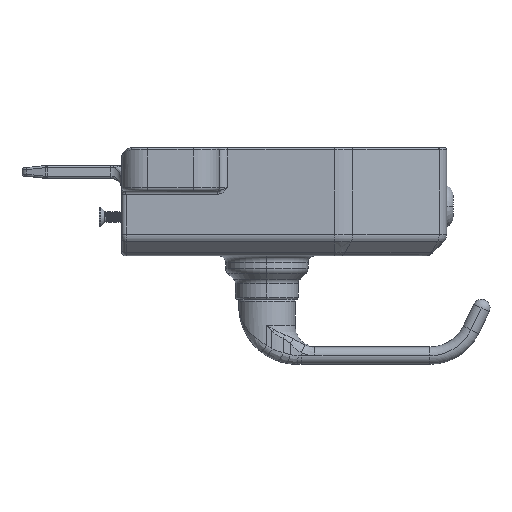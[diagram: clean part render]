
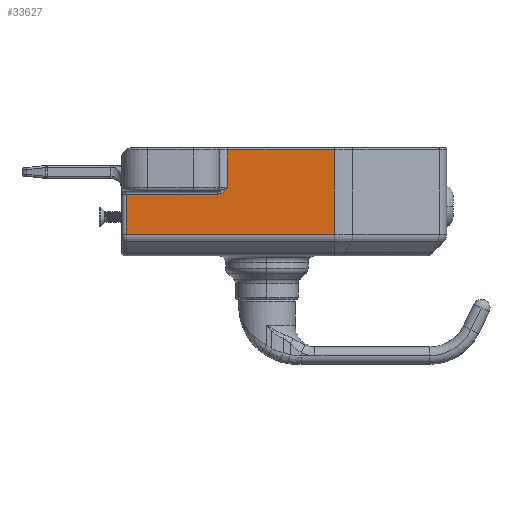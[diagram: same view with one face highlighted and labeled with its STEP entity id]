
A CAD part, left-side view. The second image highlights one B-rep face of the part: STEP entity #33627.
In plain terms, the highlighted planar face has unit normal (-1, 0, 0).
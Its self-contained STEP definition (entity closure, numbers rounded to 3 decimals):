
#937 = CARTESIAN_POINT ( 'NONE',  ( -52., 58.57, 13.579 ) ) ;
#1605 = VECTOR ( 'NONE', #40962, 1000. ) ;
#2148 = VECTOR ( 'NONE', #57525, 1000. ) ;
#2497 = CARTESIAN_POINT ( 'NONE',  ( -52., 13.516, 33.115 ) ) ;
#3290 = LINE ( 'NONE', #4265, #1605 ) ;
#3475 = VERTEX_POINT ( 'NONE', #46753 ) ;
#3653 = DIRECTION ( 'NONE',  ( 1., 0., 0. ) ) ;
#4265 = CARTESIAN_POINT ( 'NONE',  ( -52., 11.57, 52.508 ) ) ;
#6951 = DIRECTION ( 'NONE',  ( 0., 0., -1. ) ) ;
#7864 = LINE ( 'NONE', #67719, #65242 ) ;
#8057 = CARTESIAN_POINT ( 'NONE',  ( -52., 12.945, 33.591 ) ) ;
#8082 = ORIENTED_EDGE ( 'NONE', *, *, #20477, .T. ) ;
#10951 = LINE ( 'NONE', #33113, #55306 ) ;
#12161 = EDGE_CURVE ( 'NONE', #50565, #62761, #59789, .T. ) ;
#13631 = CARTESIAN_POINT ( 'NONE',  ( -52., 11.57, 35.008 ) ) ;
#14460 = EDGE_CURVE ( 'NONE', #59483, #52433, #3290, .T. ) ;
#16265 = CARTESIAN_POINT ( 'NONE',  ( -52., -37.571, 13.579 ) ) ;
#16887 = LINE ( 'NONE', #38975, #2148 ) ;
#17049 = FACE_OUTER_BOUND ( 'NONE', #41883, .T. ) ;
#18375 = ORIENTED_EDGE ( 'NONE', *, *, #61823, .T. ) ;
#18473 = DIRECTION ( 'NONE',  ( 0., 0., -1. ) ) ;
#18945 = CARTESIAN_POINT ( 'NONE',  ( -52., 16.469, 32.008 ) ) ;
#19881 = CARTESIAN_POINT ( 'NONE',  ( -52., 60.57, 53.508 ) ) ;
#20477 = EDGE_CURVE ( 'NONE', #61012, #59483, #16887, .T. ) ;
#21743 = CARTESIAN_POINT ( 'NONE',  ( -52., -37.571, 52.508 ) ) ;
#22101 = DIRECTION ( 'NONE',  ( 0., -1., 0. ) ) ;
#24101 = CARTESIAN_POINT ( 'NONE',  ( -52., 11.57, 53.508 ) ) ;
#24581 = CARTESIAN_POINT ( 'NONE',  ( -52., 15.974, 32.032 ) ) ;
#27100 = VECTOR ( 'NONE', #22101, 1000. ) ;
#28136 = ORIENTED_EDGE ( 'NONE', *, *, #12161, .T. ) ;
#30178 = CARTESIAN_POINT ( 'NONE',  ( -52., 15.251, 32.191 ) ) ;
#31327 = PLANE ( 'NONE',  #45853 ) ;
#31690 = ORIENTED_EDGE ( 'NONE', *, *, #63947, .T. ) ;
#32947 = VERTEX_POINT ( 'NONE', #937 ) ;
#33113 = CARTESIAN_POINT ( 'NONE',  ( -52., 60.57, 32.008 ) ) ;
#33627 = ADVANCED_FACE ( 'NONE', ( #17049 ), #31327, .F. ) ;
#35770 = CARTESIAN_POINT ( 'NONE',  ( -52., 14.122, 32.688 ) ) ;
#37126 = EDGE_CURVE ( 'NONE', #62761, #3475, #10951, .T. ) ;
#38975 = CARTESIAN_POINT ( 'NONE',  ( -52., -37.571, 53.508 ) ) ;
#40962 = DIRECTION ( 'NONE',  ( 0., 1., 0. ) ) ;
#41327 = CARTESIAN_POINT ( 'NONE',  ( -52., 13.32, 33.27 ) ) ;
#41836 = EDGE_CURVE ( 'NONE', #3475, #32947, #7864, .T. ) ;
#41883 = EDGE_LOOP ( 'NONE', ( #60010, #62630, #18375, #8082, #57363, #31690, #28136 ) ) ;
#42482 = DIRECTION ( 'NONE',  ( 0., 1., 0. ) ) ;
#43619 = LINE ( 'NONE', #16265, #27100 ) ;
#45853 = AXIS2_PLACEMENT_3D ( 'NONE', #19881, #3653, #42482 ) ;
#46753 = CARTESIAN_POINT ( 'NONE',  ( -52., 58.57, 32.008 ) ) ;
#46921 = CARTESIAN_POINT ( 'NONE',  ( -52., 12.765, 33.76 ) ) ;
#50516 = CARTESIAN_POINT ( 'NONE',  ( -52., 16.469, 32.008 ) ) ;
#50565 = VERTEX_POINT ( 'NONE', #65555 ) ;
#52433 = VERTEX_POINT ( 'NONE', #59569 ) ;
#55306 = VECTOR ( 'NONE', #72016, 1000. ) ;
#57363 = ORIENTED_EDGE ( 'NONE', *, *, #14460, .T. ) ;
#57525 = DIRECTION ( 'NONE',  ( 0., 0., 1. ) ) ;
#57748 = CARTESIAN_POINT ( 'NONE',  ( -52., 11.903, 34.644 ) ) ;
#57902 = CARTESIAN_POINT ( 'NONE',  ( -52., 16.219, 32.008 ) ) ;
#59483 = VERTEX_POINT ( 'NONE', #21743 ) ;
#59569 = CARTESIAN_POINT ( 'NONE',  ( -52., 11.57, 52.508 ) ) ;
#59789 = B_SPLINE_CURVE_WITH_KNOTS ( 'NONE', 3,
 ( #13631, #57748, #60110, #46921, #8057, #41327, #2497, #35770, #69091, #30178, #63449, #24581, #57902, #18945 ),
 .UNSPECIFIED., .F., .F.,
 ( 4, 2, 2, 2, 2, 2, 4 ),
 ( 0., 0.001, 0.002, 0.003, 0.004, 0.005, 0.006 ),
 .UNSPECIFIED. ) ;
#60010 = ORIENTED_EDGE ( 'NONE', *, *, #37126, .T. ) ;
#60110 = CARTESIAN_POINT ( 'NONE',  ( -52., 12.237, 34.278 ) ) ;
#61012 = VERTEX_POINT ( 'NONE', #62343 ) ;
#61734 = VECTOR ( 'NONE', #18473, 1000. ) ;
#61823 = EDGE_CURVE ( 'NONE', #32947, #61012, #43619, .T. ) ;
#62343 = CARTESIAN_POINT ( 'NONE',  ( -52., -37.571, 13.579 ) ) ;
#62630 = ORIENTED_EDGE ( 'NONE', *, *, #41836, .T. ) ;
#62761 = VERTEX_POINT ( 'NONE', #50516 ) ;
#63449 = CARTESIAN_POINT ( 'NONE',  ( -52., 15.49, 32.124 ) ) ;
#63487 = LINE ( 'NONE', #24101, #61734 ) ;
#63947 = EDGE_CURVE ( 'NONE', #52433, #50565, #63487, .T. ) ;
#65242 = VECTOR ( 'NONE', #6951, 1000. ) ;
#65555 = CARTESIAN_POINT ( 'NONE',  ( -52., 11.57, 35.008 ) ) ;
#67719 = CARTESIAN_POINT ( 'NONE',  ( -52., 58.57, 53.508 ) ) ;
#69091 = CARTESIAN_POINT ( 'NONE',  ( -52., 14.551, 32.449 ) ) ;
#72016 = DIRECTION ( 'NONE',  ( 0., 1., 0. ) ) ;
